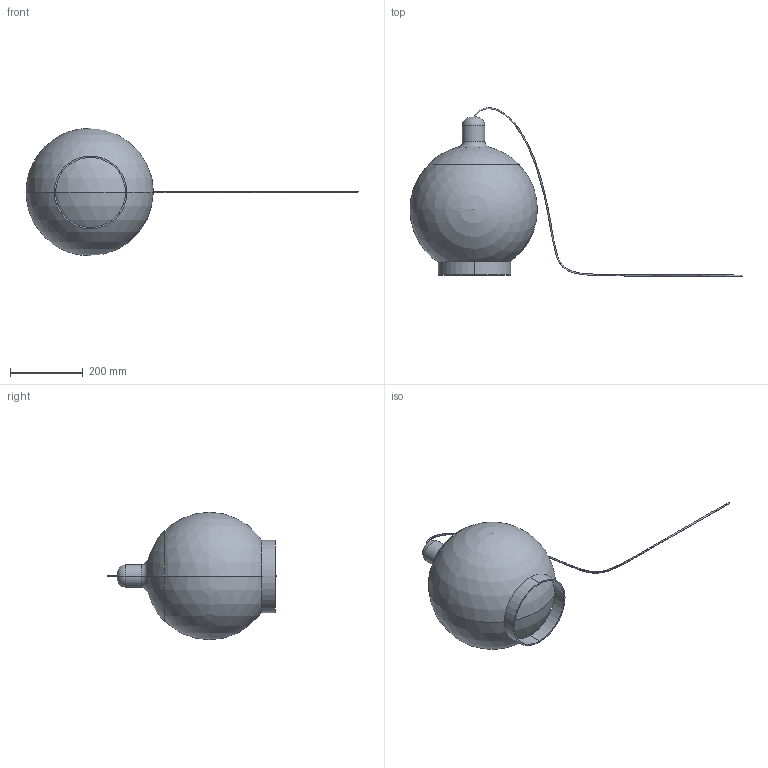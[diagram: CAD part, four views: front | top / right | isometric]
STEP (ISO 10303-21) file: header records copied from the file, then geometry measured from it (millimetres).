
FILE_DESCRIPTION (( 'STEP AP214' ), '1' );
FILE_NAME ('dolly_bord_grön_BS.STEP', '2019-11-18T09:51:07', ( '' ), ( '' ), 'SwSTEP 2.0', 'SolidWorks 2018', '' );
FILE_SCHEMA (( 'AUTOMOTIVE_DESIGN' ));
Length unit declared in the file: millimetre
Products named in the file (4): Dolly_bord_sladd; dolly_bord_gr霵_BS; Dolly_Gr霵_BS; Läderring_dolly_BS
Assembly tree (3 placements, depth 2):
  dolly_bord_gr霵_BS
    Dolly_bord_sladd
    Dolly_Gr霵_BS
    Läderring_dolly_BS
Bounding box: 912.11 x 463.98 x 350 mm (x, y, z)
Volume: 25308639.9 mm3; surface area: 1323054.6 mm2
Topology: 5 solids, 6 shells, 28 faces, 61 edges, 39 vertices
Faces by surface type: sphere 8, plane 6, torus 6, cylinder 6, bspline 2
Entity records: 1426 total; most frequent: CARTESIAN_POINT 708, DIRECTION 142, ORIENTED_EDGE 92, AXIS2_PLACEMENT_3D 68, EDGE_CURVE 46, CIRCLE 36, VERTEX_POINT 30, EDGE_LOOP 30
